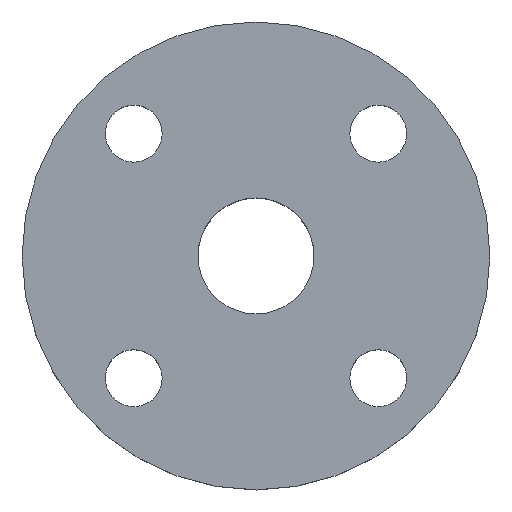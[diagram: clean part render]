
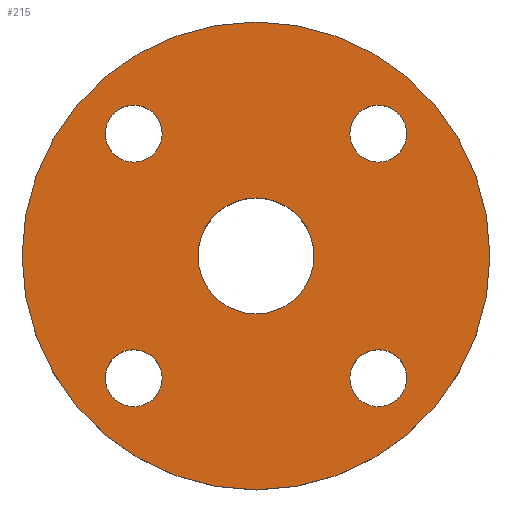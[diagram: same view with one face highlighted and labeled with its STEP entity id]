
A CAD part, top view. The second image highlights one B-rep face of the part: STEP entity #215.
In plain terms, the highlighted planar face has unit normal (0, 0, 1).
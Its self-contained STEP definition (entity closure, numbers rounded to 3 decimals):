
#28 = CIRCLE ( 'NONE', #460, 14.25 ) ;
#30 = CIRCLE ( 'NONE', #346, 14.25 ) ;
#31 = FACE_BOUND ( 'NONE', #473, .T. ) ;
#33 = FACE_BOUND ( 'NONE', #470, .T. ) ;
#44 = FACE_OUTER_BOUND ( 'NONE', #613, .T. ) ;
#45 = FACE_BOUND ( 'NONE', #554, .T. ) ;
#64 = FACE_BOUND ( 'NONE', #498, .T. ) ;
#66 = CIRCLE ( 'NONE', #149, 7. ) ;
#72 = EDGE_CURVE ( 'NONE', #600, #446, #28, .T. ) ;
#97 = DIRECTION ( 'NONE',  ( -1., 0., 0. ) ) ;
#99 = DIRECTION ( 'NONE',  ( 0., 0., -1. ) ) ;
#100 = CARTESIAN_POINT ( 'NONE',  ( 30.052, -30.052, 0. ) ) ;
#117 = CARTESIAN_POINT ( 'NONE',  ( 37.052, 30.052, 0. ) ) ;
#121 = CARTESIAN_POINT ( 'NONE',  ( -23.052, -30.052, 0. ) ) ;
#123 = CARTESIAN_POINT ( 'NONE',  ( -14.25, 0., 0. ) ) ;
#130 = CARTESIAN_POINT ( 'NONE',  ( -23.052, 30.052, 0. ) ) ;
#140 = CARTESIAN_POINT ( 'NONE',  ( 23.052, 30.052, 0. ) ) ;
#143 = EDGE_CURVE ( 'NONE', #446, #600, #30, .T. ) ;
#149 = AXIS2_PLACEMENT_3D ( 'NONE', #712, #713, #714 ) ;
#150 = EDGE_CURVE ( 'NONE', #601, #439, #66, .T. ) ;
#155 = EDGE_CURVE ( 'NONE', #607, #503, #416, .T. ) ;
#157 = CARTESIAN_POINT ( 'NONE',  ( 37.052, -30.052, 0. ) ) ;
#158 = CARTESIAN_POINT ( 'NONE',  ( -37.052, 30.052, 0. ) ) ;
#161 = CARTESIAN_POINT ( 'NONE',  ( 23.052, -30.052, 0. ) ) ;
#173 = CIRCLE ( 'NONE', #181, 7. ) ;
#176 = CARTESIAN_POINT ( 'NONE',  ( 0., 0., 0. ) ) ;
#181 = AXIS2_PLACEMENT_3D ( 'NONE', #220, #223, #214 ) ;
#184 = CARTESIAN_POINT ( 'NONE',  ( -37.052, -30.052, 0. ) ) ;
#189 = AXIS2_PLACEMENT_3D ( 'NONE', #176, #200, #192 ) ;
#192 = DIRECTION ( 'NONE',  ( 1., 0., 0. ) ) ;
#200 = DIRECTION ( 'NONE',  ( 0., 0., 1. ) ) ;
#212 = EDGE_CURVE ( 'NONE', #479, #558, #391, .T. ) ;
#214 = DIRECTION ( 'NONE',  ( -1., 0., 0. ) ) ;
#215 = ADVANCED_FACE ( 'NONE', ( #234, #33, #31, #64, #45, #44 ), #467, .T. ) ;
#220 = CARTESIAN_POINT ( 'NONE',  ( -30.052, 30.052, 0. ) ) ;
#221 = DIRECTION ( 'NONE',  ( -1., 0., 0. ) ) ;
#222 = DIRECTION ( 'NONE',  ( 0., 0., -1. ) ) ;
#223 = DIRECTION ( 'NONE',  ( 0., 0., -1. ) ) ;
#226 = CARTESIAN_POINT ( 'NONE',  ( 30.052, -30.052, 0. ) ) ;
#231 = CARTESIAN_POINT ( 'NONE',  ( -57.5, 0., 0. ) ) ;
#233 = AXIS2_PLACEMENT_3D ( 'NONE', #100, #99, #97 ) ;
#234 = FACE_BOUND ( 'NONE', #578, .T. ) ;
#235 = DIRECTION ( 'NONE',  ( 1., 0., 0. ) ) ;
#260 = CARTESIAN_POINT ( 'NONE',  ( 0., 0., 0. ) ) ;
#261 = DIRECTION ( 'NONE',  ( 0., 0., 1. ) ) ;
#263 = DIRECTION ( 'NONE',  ( 1., 0., 0. ) ) ;
#275 = CARTESIAN_POINT ( 'NONE',  ( 30.052, 30.052, 0. ) ) ;
#276 = DIRECTION ( 'NONE',  ( 0., 0., -1. ) ) ;
#277 = DIRECTION ( 'NONE',  ( -1., 0., 0. ) ) ;
#287 = EDGE_CURVE ( 'NONE', #440, #421, #378, .T. ) ;
#317 = CIRCLE ( 'NONE', #233, 7. ) ;
#336 = CIRCLE ( 'NONE', #400, 7. ) ;
#337 = EDGE_CURVE ( 'NONE', #503, #607, #367, .T. ) ;
#341 = AXIS2_PLACEMENT_3D ( 'NONE', #409, #395, #396 ) ;
#346 = AXIS2_PLACEMENT_3D ( 'NONE', #709, #710, #711 ) ;
#352 = DIRECTION ( 'NONE',  ( 0., 0., 1. ) ) ;
#354 = CARTESIAN_POINT ( 'NONE',  ( 0., 0., 0. ) ) ;
#363 = AXIS2_PLACEMENT_3D ( 'NONE', #354, #352, #235 ) ;
#365 = CARTESIAN_POINT ( 'NONE',  ( 14.25, 0., 0. ) ) ;
#367 = CIRCLE ( 'NONE', #373, 7. ) ;
#369 = CARTESIAN_POINT ( 'NONE',  ( 57.5, 0., 0. ) ) ;
#373 = AXIS2_PLACEMENT_3D ( 'NONE', #275, #276, #277 ) ;
#378 = CIRCLE ( 'NONE', #384, 57.5 ) ;
#381 = EDGE_CURVE ( 'NONE', #450, #478, #336, .T. ) ;
#383 = AXIS2_PLACEMENT_3D ( 'NONE', #739, #740, #741 ) ;
#384 = AXIS2_PLACEMENT_3D ( 'NONE', #260, #261, #263 ) ;
#386 = EDGE_CURVE ( 'NONE', #558, #479, #173, .T. ) ;
#391 = CIRCLE ( 'NONE', #383, 7. ) ;
#395 = DIRECTION ( 'NONE',  ( 0., 0., -1. ) ) ;
#396 = DIRECTION ( 'NONE',  ( -1., 0., 0. ) ) ;
#400 = AXIS2_PLACEMENT_3D ( 'NONE', #226, #222, #221 ) ;
#409 = CARTESIAN_POINT ( 'NONE',  ( -30.052, -30.052, 0. ) ) ;
#412 = EDGE_CURVE ( 'NONE', #421, #440, #707, .T. ) ;
#414 = AXIS2_PLACEMENT_3D ( 'NONE', #715, #716, #717 ) ;
#416 = CIRCLE ( 'NONE', #414, 7. ) ;
#421 = VERTEX_POINT ( 'NONE', #369 ) ;
#428 = ORIENTED_EDGE ( 'NONE', *, *, #650, .T. ) ;
#429 = ORIENTED_EDGE ( 'NONE', *, *, #381, .T. ) ;
#430 = ORIENTED_EDGE ( 'NONE', *, *, #150, .T. ) ;
#431 = EDGE_CURVE ( 'NONE', #439, #601, #656, .T. ) ;
#439 = VERTEX_POINT ( 'NONE', #184 ) ;
#440 = VERTEX_POINT ( 'NONE', #231 ) ;
#446 = VERTEX_POINT ( 'NONE', #365 ) ;
#450 = VERTEX_POINT ( 'NONE', #161 ) ;
#460 = AXIS2_PLACEMENT_3D ( 'NONE', #681, #682, #683 ) ;
#467 = PLANE ( 'NONE',  #363 ) ;
#470 = EDGE_LOOP ( 'NONE', ( #430, #566 ) ) ;
#473 = EDGE_LOOP ( 'NONE', ( #567, #570 ) ) ;
#478 = VERTEX_POINT ( 'NONE', #157 ) ;
#479 = VERTEX_POINT ( 'NONE', #158 ) ;
#498 = EDGE_LOOP ( 'NONE', ( #572, #573 ) ) ;
#503 = VERTEX_POINT ( 'NONE', #140 ) ;
#554 = EDGE_LOOP ( 'NONE', ( #574, #575 ) ) ;
#558 = VERTEX_POINT ( 'NONE', #130 ) ;
#566 = ORIENTED_EDGE ( 'NONE', *, *, #431, .T. ) ;
#567 = ORIENTED_EDGE ( 'NONE', *, *, #386, .T. ) ;
#570 = ORIENTED_EDGE ( 'NONE', *, *, #212, .T. ) ;
#572 = ORIENTED_EDGE ( 'NONE', *, *, #155, .T. ) ;
#573 = ORIENTED_EDGE ( 'NONE', *, *, #337, .T. ) ;
#574 = ORIENTED_EDGE ( 'NONE', *, *, #72, .T. ) ;
#575 = ORIENTED_EDGE ( 'NONE', *, *, #143, .T. ) ;
#577 = ORIENTED_EDGE ( 'NONE', *, *, #412, .T. ) ;
#578 = EDGE_LOOP ( 'NONE', ( #428, #429 ) ) ;
#579 = ORIENTED_EDGE ( 'NONE', *, *, #287, .T. ) ;
#600 = VERTEX_POINT ( 'NONE', #123 ) ;
#601 = VERTEX_POINT ( 'NONE', #121 ) ;
#607 = VERTEX_POINT ( 'NONE', #117 ) ;
#613 = EDGE_LOOP ( 'NONE', ( #577, #579 ) ) ;
#650 = EDGE_CURVE ( 'NONE', #478, #450, #317, .T. ) ;
#656 = CIRCLE ( 'NONE', #341, 7. ) ;
#681 = CARTESIAN_POINT ( 'NONE',  ( 0., 0., 0. ) ) ;
#682 = DIRECTION ( 'NONE',  ( 0., 0., -1. ) ) ;
#683 = DIRECTION ( 'NONE',  ( -1., 0., 0. ) ) ;
#707 = CIRCLE ( 'NONE', #189, 57.5 ) ;
#709 = CARTESIAN_POINT ( 'NONE',  ( 0., 0., 0. ) ) ;
#710 = DIRECTION ( 'NONE',  ( 0., 0., -1. ) ) ;
#711 = DIRECTION ( 'NONE',  ( -1., 0., 0. ) ) ;
#712 = CARTESIAN_POINT ( 'NONE',  ( -30.052, -30.052, 0. ) ) ;
#713 = DIRECTION ( 'NONE',  ( 0., 0., -1. ) ) ;
#714 = DIRECTION ( 'NONE',  ( -1., 0., 0. ) ) ;
#715 = CARTESIAN_POINT ( 'NONE',  ( 30.052, 30.052, 0. ) ) ;
#716 = DIRECTION ( 'NONE',  ( 0., 0., -1. ) ) ;
#717 = DIRECTION ( 'NONE',  ( -1., 0., 0. ) ) ;
#739 = CARTESIAN_POINT ( 'NONE',  ( -30.052, 30.052, 0. ) ) ;
#740 = DIRECTION ( 'NONE',  ( 0., 0., -1. ) ) ;
#741 = DIRECTION ( 'NONE',  ( -1., 0., 0. ) ) ;
